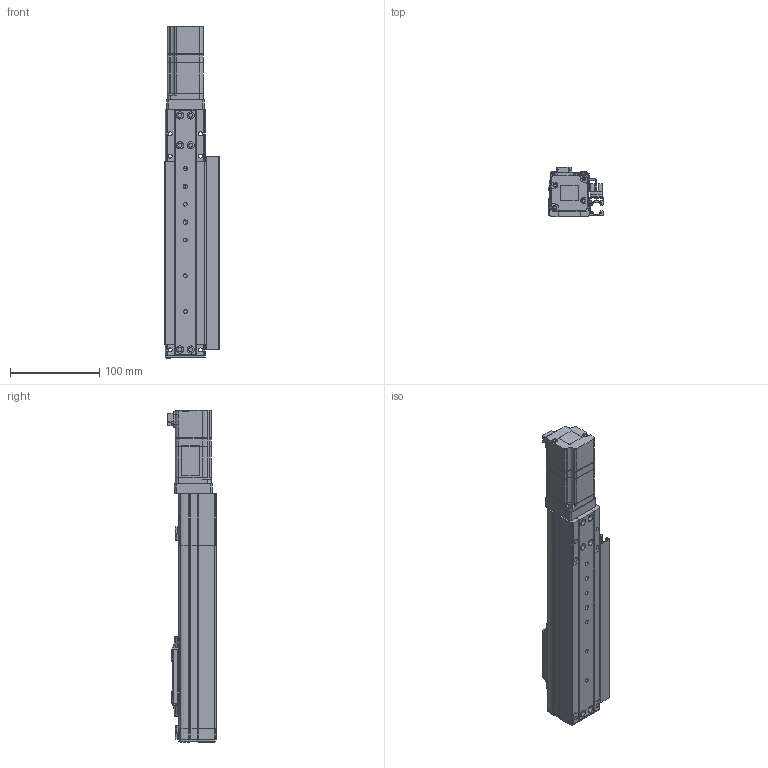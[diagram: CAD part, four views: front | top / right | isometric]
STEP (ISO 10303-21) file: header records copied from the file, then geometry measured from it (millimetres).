
FILE_DESCRIPTION (( 'STEP AP203' ), '1' );
FILE_NAME ('PES045SON-1205-ST100-42NN00-N-I3R.STEP', '2015-10-06T07:55:06', ( '' ), ( '' ), 'SwSTEP 2.0', 'SolidWorks 2012', '' );
FILE_SCHEMA (( 'CONFIG_CONTROL_DESIGN' ));
Products named in the file (14): PES045SON-1205-ST100-42NN00-N-I3R; PES045-Sensor Dog; SGMJV 100W; SDWA-22C; EE_SX674; PES045-Carrier UPPER COVER; PES045-Sus Band Holder; PES045S-Motor Bracket; PES045-Carrier END COVER; PES045-END COVER(Tail); PES045S-Free Bearing; PES045-Carrier; PES045S- 100ST LM GUIDE; PES045S-Fix Bearing
Assembly tree (17 placements, depth 2):
  PES045SON-1205-ST100-42NN00-N-I3R
    PES045S-Fix Bearing
    PES045S- 100ST LM GUIDE
    PES045S-Free Bearing
    PES045-Carrier
    PES045-END COVER(Tail)
    PES045-Carrier END COVER  x2
    PES045-Carrier UPPER COVER
    PES045-Sus Band Holder  x2
    PES045S-Motor Bracket
    PES045-Sensor Dog
    SGMJV 100W
    EE_SX674  x3
    SDWA-22C
Bounding box: 60.6 x 54.8 x 371.62 mm (x, y, z)
Volume: 433573.8 mm3; surface area: 212847.6 mm2
Topology: 23 solids, 31 shells, 2549 faces, 6704 edges, 4297 vertices
Faces by surface type: plane 1131, cylinder 873, bspline 264, cone 259, sphere 16, torus 6
Entity records: 83317 total; most frequent: CARTESIAN_POINT 24220, ORIENTED_EDGE 12246, DIRECTION 11935, EDGE_CURVE 6123, AXIS2_PLACEMENT_3D 4341, VERTEX_POINT 3947, VECTOR 3253, LINE 3253
